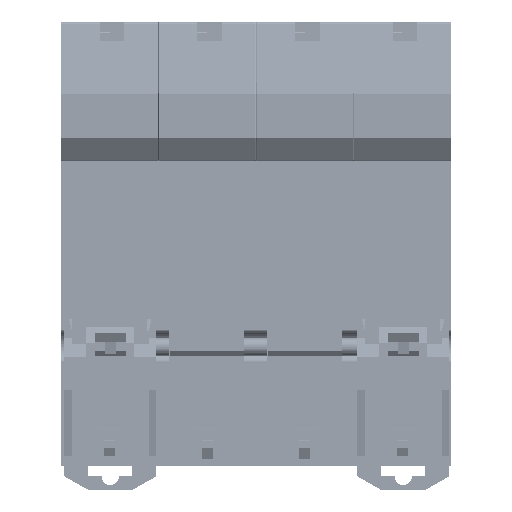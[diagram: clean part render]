
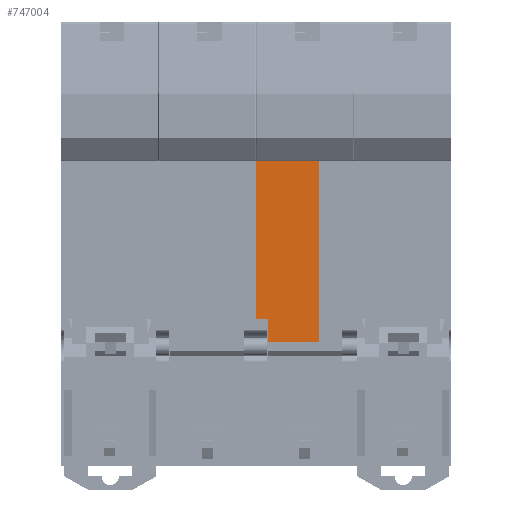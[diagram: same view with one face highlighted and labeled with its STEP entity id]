
A CAD part, left-side view. The second image highlights one B-rep face of the part: STEP entity #747004.
In plain terms, the highlighted planar face has unit normal (-1, 0, 0).
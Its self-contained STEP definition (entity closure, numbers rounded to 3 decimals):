
#9673 = ORIENTED_EDGE ( 'NONE', *, *, #312740, .T. ) ;
#12189 = CARTESIAN_POINT ( 'NONE',  ( -2.5, 33.45, 26.9 ) ) ;
#94638 = LINE ( 'NONE', #352827, #405038 ) ;
#97708 = CARTESIAN_POINT ( 'NONE',  ( -2.5, 24.1, 58.1 ) ) ;
#109641 = VERTEX_POINT ( 'NONE', #12189 ) ;
#156451 = CARTESIAN_POINT ( 'NONE',  ( -2.5, 35.6, 26.9 ) ) ;
#189278 = EDGE_CURVE ( 'NONE', #617046, #283446, #803901, .T. ) ;
#193594 = DIRECTION ( 'NONE',  ( 0., 0., 1. ) ) ;
#199595 = CARTESIAN_POINT ( 'NONE',  ( -2.5, 24.1, 58.1 ) ) ;
#201453 = ORIENTED_EDGE ( 'NONE', *, *, #817220, .T. ) ;
#223243 = AXIS2_PLACEMENT_3D ( 'NONE', #464532, #709994, #193594 ) ;
#249306 = EDGE_LOOP ( 'NONE', ( #201453, #9673, #380099, #424304, #639207, #627683 ) ) ;
#262430 = VERTEX_POINT ( 'NONE', #626218 ) ;
#276226 = DIRECTION ( 'NONE',  ( 0., 0., -1. ) ) ;
#283446 = VERTEX_POINT ( 'NONE', #501528 ) ;
#289874 = DIRECTION ( 'NONE',  ( 0., -1., 0. ) ) ;
#312740 = EDGE_CURVE ( 'NONE', #109641, #453490, #648817, .T. ) ;
#318528 = PLANE ( 'NONE',  #223243 ) ;
#322642 = EDGE_CURVE ( 'NONE', #453490, #672586, #94638, .T. ) ;
#340835 = CARTESIAN_POINT ( 'NONE',  ( -2.5, 35.6, 58.1 ) ) ;
#352827 = CARTESIAN_POINT ( 'NONE',  ( -2.5, 35.6, 22.6 ) ) ;
#356515 = DIRECTION ( 'NONE',  ( 0., 1., 0. ) ) ;
#380099 = ORIENTED_EDGE ( 'NONE', *, *, #322642, .T. ) ;
#397338 = VECTOR ( 'NONE', #276226, 1000. ) ;
#405038 = VECTOR ( 'NONE', #559236, 1000. ) ;
#406265 = LINE ( 'NONE', #156451, #573746 ) ;
#408323 = VECTOR ( 'NONE', #462036, 1000. ) ;
#412628 = CARTESIAN_POINT ( 'NONE',  ( -2.5, 56.7, 58.1 ) ) ;
#424304 = ORIENTED_EDGE ( 'NONE', *, *, #684743, .T. ) ;
#442376 = CARTESIAN_POINT ( 'NONE',  ( -2.5, 33.45, 58.1 ) ) ;
#453490 = VERTEX_POINT ( 'NONE', #510466 ) ;
#462036 = DIRECTION ( 'NONE',  ( 0., 0., 1. ) ) ;
#462589 = VECTOR ( 'NONE', #700564, 1000. ) ;
#464532 = CARTESIAN_POINT ( 'NONE',  ( -2.5, 35.6, 58.1 ) ) ;
#501528 = CARTESIAN_POINT ( 'NONE',  ( -2.5, 35.6, 58.1 ) ) ;
#510466 = CARTESIAN_POINT ( 'NONE',  ( -2.5, 33.45, 22.6 ) ) ;
#526623 = LINE ( 'NONE', #199595, #408323 ) ;
#559236 = DIRECTION ( 'NONE',  ( 0., -1., 0. ) ) ;
#573746 = VECTOR ( 'NONE', #289874, 1000. ) ;
#576799 = FACE_OUTER_BOUND ( 'NONE', #249306, .T. ) ;
#585398 = VECTOR ( 'NONE', #356515, 1000. ) ;
#587565 = CARTESIAN_POINT ( 'NONE',  ( -2.5, 24.1, 22.6 ) ) ;
#617046 = VERTEX_POINT ( 'NONE', #97708 ) ;
#626218 = CARTESIAN_POINT ( 'NONE',  ( -2.5, 35.6, 26.9 ) ) ;
#627683 = ORIENTED_EDGE ( 'NONE', *, *, #824383, .T. ) ;
#639207 = ORIENTED_EDGE ( 'NONE', *, *, #189278, .T. ) ;
#648817 = LINE ( 'NONE', #442376, #462589 ) ;
#672586 = VERTEX_POINT ( 'NONE', #587565 ) ;
#684743 = EDGE_CURVE ( 'NONE', #672586, #617046, #526623, .T. ) ;
#700564 = DIRECTION ( 'NONE',  ( 0., 0., -1. ) ) ;
#709994 = DIRECTION ( 'NONE',  ( 1., 0., 0. ) ) ;
#747004 = ADVANCED_FACE ( 'NONE', ( #576799 ), #318528, .F. ) ;
#800976 = LINE ( 'NONE', #340835, #397338 ) ;
#803901 = LINE ( 'NONE', #412628, #585398 ) ;
#817220 = EDGE_CURVE ( 'NONE', #262430, #109641, #406265, .T. ) ;
#824383 = EDGE_CURVE ( 'NONE', #283446, #262430, #800976, .T. ) ;
